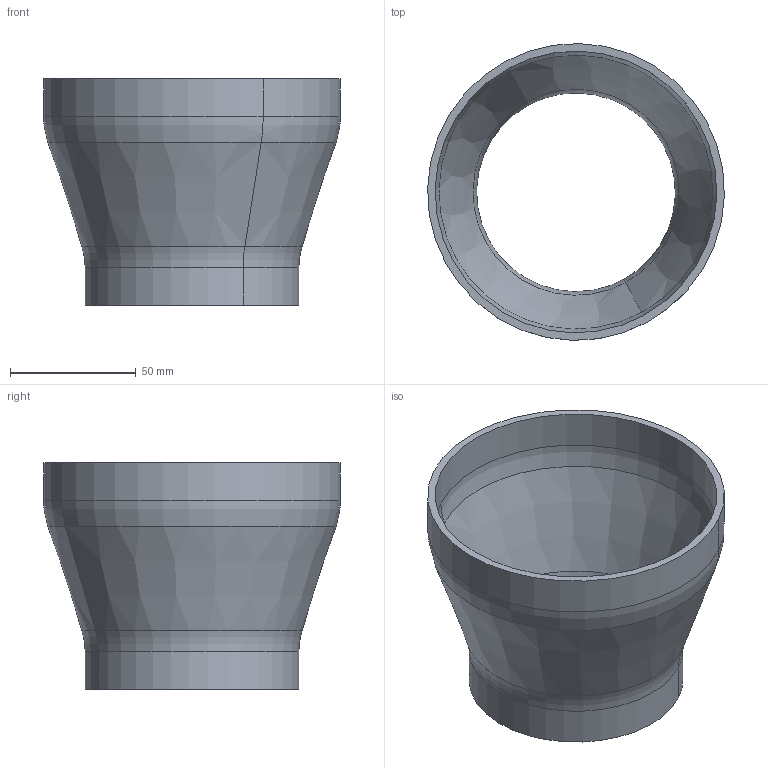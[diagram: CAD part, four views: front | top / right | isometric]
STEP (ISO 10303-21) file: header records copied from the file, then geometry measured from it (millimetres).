
FILE_DESCRIPTION(('CATIA V5 STEP Exchange'),'2;1');
FILE_NAME('C:\Users\Administrator\Desktop\囊皮.stp','2021-04-28T05:49:55+00:00',('none'),('none'),'CATIA Version 5 Release 20 GA (IN-10)','CATIA V5 STEP AP203','none');
FILE_SCHEMA(('CONFIG_CONTROL_DESIGN'));
Length unit declared in the file: millimetre
Products named in the file (1): SLT0010277-方案2
Assembly tree (1 placements, depth 2):
  SLT0010277-方案2
    #58
Bounding box: 117.97 x 117.97 x 90 mm (x, y, z)
Volume: 85912.8 mm3; surface area: 59132 mm2
Topology: 1 solids, 1 shells, 22 faces, 44 edges, 24 vertices
Faces by surface type: cylinder 8, revolution 4, cone 4, torus 4, plane 2
Entity records: 628 total; most frequent: CARTESIAN_POINT 120, ORIENTED_EDGE 88, DIRECTION 84, AXIS2_PLACEMENT_3D 48, EDGE_CURVE 44, CIRCLE 28, EDGE_LOOP 24, VERTEX_POINT 24
